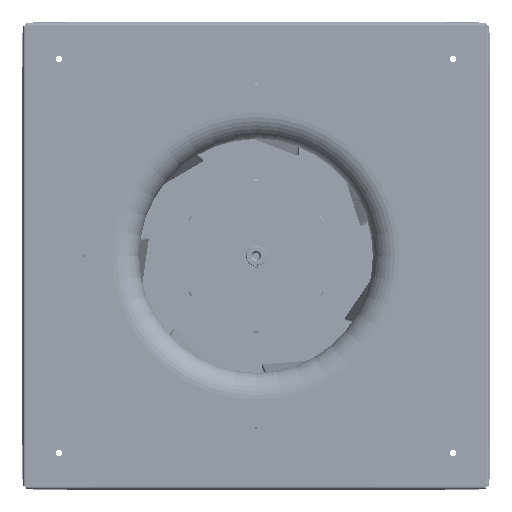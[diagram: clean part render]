
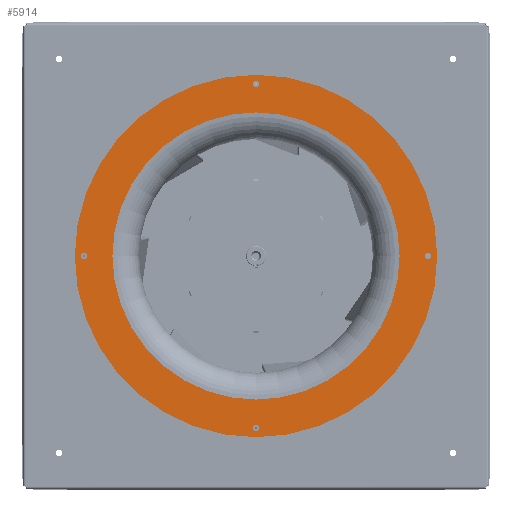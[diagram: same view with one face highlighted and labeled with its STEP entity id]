
A CAD part, front view. The second image highlights one B-rep face of the part: STEP entity #5914.
In plain terms, the highlighted planar face has unit normal (0, -1, 0) as drawn and (0, 0, 1) by its records, which use the part's own axes.
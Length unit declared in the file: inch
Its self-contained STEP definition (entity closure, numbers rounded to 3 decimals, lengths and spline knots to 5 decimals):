
#4101 = ORIENTED_EDGE ( 'NONE', *, *, #129618, .F. ) ;
#5914 = ADVANCED_FACE ( 'NONE', ( #112957, #275003, #230906, #136549, #61114, #303223 ), #183708, .F. ) ;
#6003 = DIRECTION ( 'NONE',  ( 0., 0., 1. ) ) ;
#9133 = CARTESIAN_POINT ( 'NONE',  ( 9.6063, -0.16732, 0. ) ) ;
#19385 = DIRECTION ( 'NONE',  ( 1., 0., 0. ) ) ;
#20731 = EDGE_LOOP ( 'NONE', ( #257706, #134200 ) ) ;
#23724 = VERTEX_POINT ( 'NONE', #114771 ) ;
#26348 = CARTESIAN_POINT ( 'NONE',  ( 0., 0., 0. ) ) ;
#26864 = CARTESIAN_POINT ( 'NONE',  ( 0., 0., 0. ) ) ;
#29942 = CARTESIAN_POINT ( 'NONE',  ( 0., 9.6063, 0. ) ) ;
#31155 = CARTESIAN_POINT ( 'NONE',  ( 9.6063, 0., 0. ) ) ;
#31624 = CARTESIAN_POINT ( 'NONE',  ( -9.6063, 0., 0. ) ) ;
#34611 = DIRECTION ( 'NONE',  ( 0., 0., 1. ) ) ;
#34744 = DIRECTION ( 'NONE',  ( 0., 1., 0. ) ) ;
#37098 = CIRCLE ( 'NONE', #42023, 0.16732 ) ;
#37303 = EDGE_CURVE ( 'NONE', #252211, #191500, #223784, .T. ) ;
#40766 = CIRCLE ( 'NONE', #206445, 0.16732 ) ;
#42023 = AXIS2_PLACEMENT_3D ( 'NONE', #114168, #65398, #131587 ) ;
#42996 = DIRECTION ( 'NONE',  ( 0., 0., 1. ) ) ;
#43533 = CIRCLE ( 'NONE', #194825, 10.11811 ) ;
#43572 = CARTESIAN_POINT ( 'NONE',  ( -0.16732, -9.6063, 0. ) ) ;
#45079 = DIRECTION ( 'NONE',  ( 1., 0., 0. ) ) ;
#47862 = DIRECTION ( 'NONE',  ( 0., 0., 1. ) ) ;
#52859 = AXIS2_PLACEMENT_3D ( 'NONE', #279659, #256069, #106749 ) ;
#58341 = DIRECTION ( 'NONE',  ( 0., 0., 1. ) ) ;
#61114 = FACE_BOUND ( 'NONE', #88058, .T. ) ;
#61139 = EDGE_CURVE ( 'NONE', #289009, #204104, #297002, .T. ) ;
#65398 = DIRECTION ( 'NONE',  ( 0., 0., 1. ) ) ;
#67181 = AXIS2_PLACEMENT_3D ( 'NONE', #258456, #42996, #19385 ) ;
#67931 = VERTEX_POINT ( 'NONE', #43572 ) ;
#80367 = CIRCLE ( 'NONE', #165942, 10.11811 ) ;
#82587 = EDGE_CURVE ( 'NONE', #124745, #266026, #43533, .T. ) ;
#88058 = EDGE_LOOP ( 'NONE', ( #159400, #186130 ) ) ;
#92255 = CARTESIAN_POINT ( 'NONE',  ( 0., 0., 0. ) ) ;
#96418 = EDGE_CURVE ( 'NONE', #266026, #124745, #80367, .T. ) ;
#98396 = CIRCLE ( 'NONE', #188820, 0.16732 ) ;
#101515 = CIRCLE ( 'NONE', #151598, 0.16732 ) ;
#102173 = CIRCLE ( 'NONE', #67181, 0.16732 ) ;
#102942 = CARTESIAN_POINT ( 'NONE',  ( 10.11811, 0., 0. ) ) ;
#106749 = DIRECTION ( 'NONE',  ( 0., -1., 0. ) ) ;
#106956 = ORIENTED_EDGE ( 'NONE', *, *, #308744, .F. ) ;
#107962 = DIRECTION ( 'NONE',  ( 1., 0., 0. ) ) ;
#111963 = DIRECTION ( 'NONE',  ( 0., 0., 1. ) ) ;
#112870 = CARTESIAN_POINT ( 'NONE',  ( -9.6063, 0.16732, 0. ) ) ;
#112957 = FACE_BOUND ( 'NONE', #173763, .T. ) ;
#114168 = CARTESIAN_POINT ( 'NONE',  ( 0., -9.6063, 0. ) ) ;
#114771 = CARTESIAN_POINT ( 'NONE',  ( -8.01772, 0., 0. ) ) ;
#124745 = VERTEX_POINT ( 'NONE', #130726 ) ;
#125931 = DIRECTION ( 'NONE',  ( 1., 0., 0. ) ) ;
#126379 = CARTESIAN_POINT ( 'NONE',  ( 9.6063, 0., 0. ) ) ;
#129618 = EDGE_CURVE ( 'NONE', #67931, #135933, #98396, .T. ) ;
#130726 = CARTESIAN_POINT ( 'NONE',  ( -10.11811, 0., 0. ) ) ;
#131587 = DIRECTION ( 'NONE',  ( -1., 0., 0. ) ) ;
#134200 = ORIENTED_EDGE ( 'NONE', *, *, #82587, .T. ) ;
#135552 = CARTESIAN_POINT ( 'NONE',  ( 0., -9.6063, 0. ) ) ;
#135933 = VERTEX_POINT ( 'NONE', #306385 ) ;
#136549 = FACE_BOUND ( 'NONE', #289426, .T. ) ;
#137005 = ORIENTED_EDGE ( 'NONE', *, *, #273517, .F. ) ;
#140779 = ORIENTED_EDGE ( 'NONE', *, *, #199971, .F. ) ;
#144978 = CIRCLE ( 'NONE', #235446, 0.16732 ) ;
#148401 = DIRECTION ( 'NONE',  ( 1., 0., 0. ) ) ;
#151598 = AXIS2_PLACEMENT_3D ( 'NONE', #126379, #239705, #286872 ) ;
#157553 = VERTEX_POINT ( 'NONE', #223546 ) ;
#159400 = ORIENTED_EDGE ( 'NONE', *, *, #300457, .F. ) ;
#164582 = DIRECTION ( 'NONE',  ( 0., 0., 1. ) ) ;
#165942 = AXIS2_PLACEMENT_3D ( 'NONE', #26864, #270521, #218715 ) ;
#167644 = ORIENTED_EDGE ( 'NONE', *, *, #305028, .F. ) ;
#169827 = DIRECTION ( 'NONE',  ( 0., 1., 0. ) ) ;
#173763 = EDGE_LOOP ( 'NONE', ( #167644, #201274 ) ) ;
#176243 = ORIENTED_EDGE ( 'NONE', *, *, #61139, .F. ) ;
#182572 = EDGE_CURVE ( 'NONE', #302792, #247633, #40766, .T. ) ;
#183708 = PLANE ( 'NONE',  #52859 ) ;
#186130 = ORIENTED_EDGE ( 'NONE', *, *, #182572, .F. ) ;
#187192 = CARTESIAN_POINT ( 'NONE',  ( -9.6063, 0., 0. ) ) ;
#188820 = AXIS2_PLACEMENT_3D ( 'NONE', #135552, #111963, #229931 ) ;
#189580 = CARTESIAN_POINT ( 'NONE',  ( 9.6063, 0.16732, 0. ) ) ;
#190288 = DIRECTION ( 'NONE',  ( 0., 0., 1. ) ) ;
#191500 = VERTEX_POINT ( 'NONE', #222774 ) ;
#193146 = CIRCLE ( 'NONE', #268347, 8.01772 ) ;
#194825 = AXIS2_PLACEMENT_3D ( 'NONE', #239719, #47862, #148401 ) ;
#197356 = EDGE_LOOP ( 'NONE', ( #176243, #140779 ) ) ;
#198622 = AXIS2_PLACEMENT_3D ( 'NONE', #29942, #34611, #125931 ) ;
#199971 = EDGE_CURVE ( 'NONE', #204104, #289009, #144978, .T. ) ;
#201274 = ORIENTED_EDGE ( 'NONE', *, *, #217743, .F. ) ;
#204104 = VERTEX_POINT ( 'NONE', #302403 ) ;
#205229 = DIRECTION ( 'NONE',  ( 0., -1., 0. ) ) ;
#206445 = AXIS2_PLACEMENT_3D ( 'NONE', #31155, #6003, #205229 ) ;
#207732 = CIRCLE ( 'NONE', #222959, 8.01772 ) ;
#217743 = EDGE_CURVE ( 'NONE', #23724, #157553, #193146, .T. ) ;
#218715 = DIRECTION ( 'NONE',  ( 1., 0., 0. ) ) ;
#222774 = CARTESIAN_POINT ( 'NONE',  ( 0.16732, 9.6063, 0. ) ) ;
#222959 = AXIS2_PLACEMENT_3D ( 'NONE', #92255, #164582, #45079 ) ;
#223546 = CARTESIAN_POINT ( 'NONE',  ( 8.01772, 0., 0. ) ) ;
#223784 = CIRCLE ( 'NONE', #198622, 0.16732 ) ;
#223924 = ORIENTED_EDGE ( 'NONE', *, *, #37303, .F. ) ;
#229042 = DIRECTION ( 'NONE',  ( 0., 0., 1. ) ) ;
#229931 = DIRECTION ( 'NONE',  ( -1., 0., 0. ) ) ;
#230906 = FACE_BOUND ( 'NONE', #197356, .T. ) ;
#235446 = AXIS2_PLACEMENT_3D ( 'NONE', #187192, #190288, #169827 ) ;
#236041 = CARTESIAN_POINT ( 'NONE',  ( -0.16732, 9.6063, 0. ) ) ;
#239705 = DIRECTION ( 'NONE',  ( 0., 0., 1. ) ) ;
#239719 = CARTESIAN_POINT ( 'NONE',  ( 0., 0., 0. ) ) ;
#247633 = VERTEX_POINT ( 'NONE', #9133 ) ;
#252211 = VERTEX_POINT ( 'NONE', #236041 ) ;
#256069 = DIRECTION ( 'NONE',  ( 0., 0., -1. ) ) ;
#257706 = ORIENTED_EDGE ( 'NONE', *, *, #96418, .T. ) ;
#258456 = CARTESIAN_POINT ( 'NONE',  ( 0., 9.6063, 0. ) ) ;
#266026 = VERTEX_POINT ( 'NONE', #102942 ) ;
#268347 = AXIS2_PLACEMENT_3D ( 'NONE', #26348, #229042, #107962 ) ;
#270521 = DIRECTION ( 'NONE',  ( 0., 0., 1. ) ) ;
#273517 = EDGE_CURVE ( 'NONE', #135933, #67931, #37098, .T. ) ;
#275003 = FACE_BOUND ( 'NONE', #293846, .T. ) ;
#277072 = AXIS2_PLACEMENT_3D ( 'NONE', #31624, #58341, #34744 ) ;
#279659 = CARTESIAN_POINT ( 'NONE',  ( 0., 10.11811, 0. ) ) ;
#286872 = DIRECTION ( 'NONE',  ( 0., -1., 0. ) ) ;
#289009 = VERTEX_POINT ( 'NONE', #112870 ) ;
#289426 = EDGE_LOOP ( 'NONE', ( #4101, #137005 ) ) ;
#293846 = EDGE_LOOP ( 'NONE', ( #106956, #223924 ) ) ;
#297002 = CIRCLE ( 'NONE', #277072, 0.16732 ) ;
#300457 = EDGE_CURVE ( 'NONE', #247633, #302792, #101515, .T. ) ;
#302403 = CARTESIAN_POINT ( 'NONE',  ( -9.6063, -0.16732, 0. ) ) ;
#302792 = VERTEX_POINT ( 'NONE', #189580 ) ;
#303223 = FACE_OUTER_BOUND ( 'NONE', #20731, .T. ) ;
#305028 = EDGE_CURVE ( 'NONE', #157553, #23724, #207732, .T. ) ;
#306385 = CARTESIAN_POINT ( 'NONE',  ( 0.16732, -9.6063, 0. ) ) ;
#308744 = EDGE_CURVE ( 'NONE', #191500, #252211, #102173, .T. ) ;
